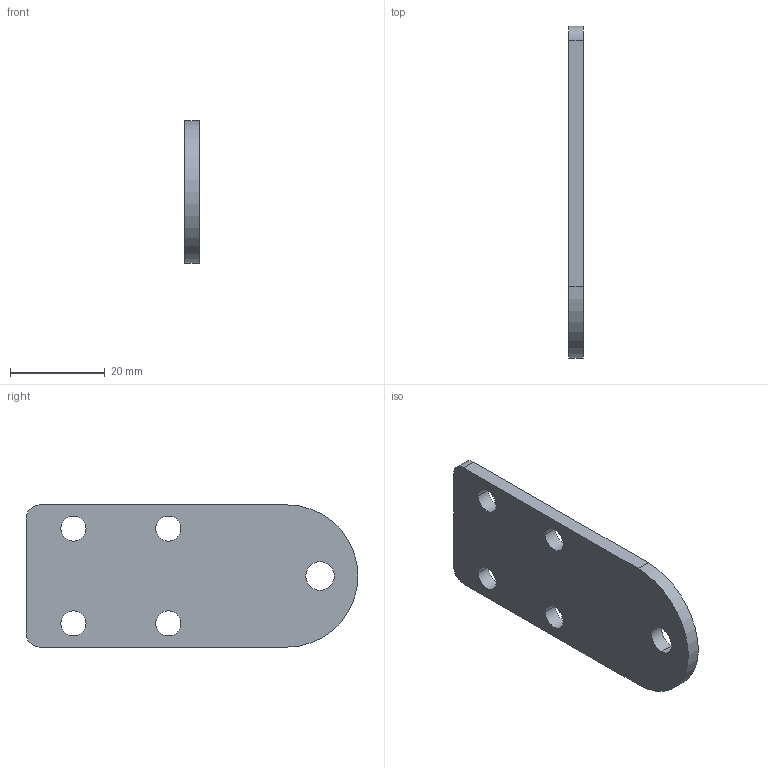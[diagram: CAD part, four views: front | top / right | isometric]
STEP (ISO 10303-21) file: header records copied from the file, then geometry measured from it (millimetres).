
FILE_DESCRIPTION((''),'2;1');
FILE_NAME('0000187209','2024-02-16T16:49:45',('Wyndorps'),(''),'CREO PARAMETRIC BY PTC INC, 2022484','CREO PARAMETRIC BY PTC INC, 2022484','');
FILE_SCHEMA(('CONFIG_CONTROL_DESIGN'));
Length unit declared in the file: millimetre
Products named in the file (1): 0000187209
Bounding box: 3 x 70 x 30 mm (x, y, z)
Volume: 5649.1 mm3; surface area: 4576.1 mm2
Topology: 1 solids, 1 shells, 18 faces, 48 edges, 32 vertices
Faces by surface type: cylinder 13, plane 5
Entity records: 636 total; most frequent: DIRECTION 110, CARTESIAN_POINT 98, ORIENTED_EDGE 96, EDGE_CURVE 48, AXIS2_PLACEMENT_3D 44, VERTEX_POINT 32, EDGE_LOOP 28, CIRCLE 26
